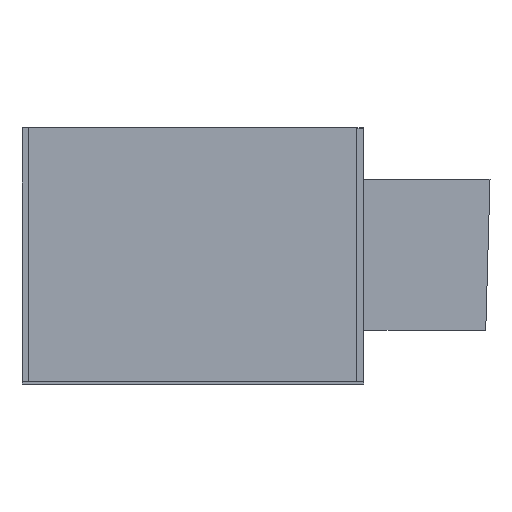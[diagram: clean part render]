
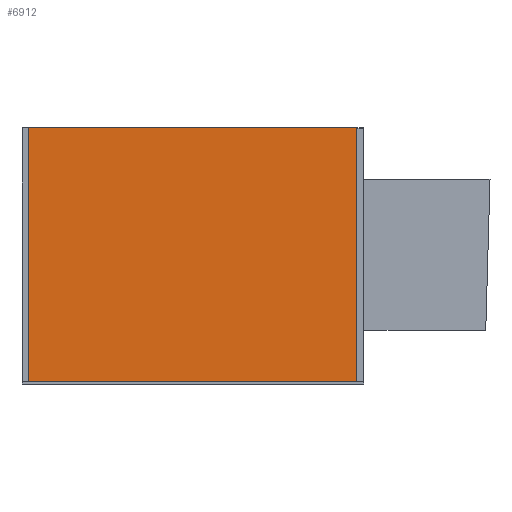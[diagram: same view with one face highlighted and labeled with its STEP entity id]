
A CAD part, left-side view. The second image highlights one B-rep face of the part: STEP entity #6912.
In plain terms, the highlighted planar face has unit normal (-1, 0, 0) as drawn and (0, 0, 1) by its records, which use the part's own axes.
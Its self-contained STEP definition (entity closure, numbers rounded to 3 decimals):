
#124 = EDGE_CURVE ( 'NONE', #4609, #1933, #7025, .T. ) ;
#166 = DIRECTION ( 'NONE',  ( 0., 0., 1. ) ) ;
#296 = CARTESIAN_POINT ( 'NONE',  ( -148.176, 73.687, 0. ) ) ;
#448 = VERTEX_POINT ( 'NONE', #6343 ) ;
#531 = LINE ( 'NONE', #2198, #1181 ) ;
#593 = CIRCLE ( 'NONE', #7205, 0.2 ) ;
#635 = VERTEX_POINT ( 'NONE', #5976 ) ;
#641 = DIRECTION ( 'NONE',  ( 0., 1., 0. ) ) ;
#726 = AXIS2_PLACEMENT_3D ( 'NONE', #5363, #3594, #5909 ) ;
#952 = CARTESIAN_POINT ( 'NONE',  ( -148.376, 457.687, 0. ) ) ;
#1132 = CARTESIAN_POINT ( 'NONE',  ( -148.176, 73.887, 0. ) ) ;
#1181 = VECTOR ( 'NONE', #641, 1000. ) ;
#1336 = EDGE_CURVE ( 'NONE', #635, #2489, #6697, .T. ) ;
#1803 = EDGE_CURVE ( 'NONE', #635, #2927, #3127, .T. ) ;
#1933 = VERTEX_POINT ( 'NONE', #952 ) ;
#2062 = ORIENTED_EDGE ( 'NONE', *, *, #5926, .T. ) ;
#2198 = CARTESIAN_POINT ( 'NONE',  ( -445.176, 457.687, 0. ) ) ;
#2323 = ORIENTED_EDGE ( 'NONE', *, *, #5016, .T. ) ;
#2405 = CARTESIAN_POINT ( 'NONE',  ( -148.376, 457.487, 0. ) ) ;
#2489 = VERTEX_POINT ( 'NONE', #1132 ) ;
#2518 = DIRECTION ( 'NONE',  ( 0., 0., -1. ) ) ;
#2551 = FACE_OUTER_BOUND ( 'NONE', #4877, .T. ) ;
#2628 = VECTOR ( 'NONE', #5741, 1000. ) ;
#2641 = DIRECTION ( 'NONE',  ( -1., 0., 0. ) ) ;
#2668 = DIRECTION ( 'NONE',  ( -1., 0., 0. ) ) ;
#2795 = AXIS2_PLACEMENT_3D ( 'NONE', #2405, #6904, #6796 ) ;
#2836 = LINE ( 'NONE', #2877, #3687 ) ;
#2865 = CIRCLE ( 'NONE', #726, 0.2 ) ;
#2877 = CARTESIAN_POINT ( 'NONE',  ( -148.176, 457.687, 0. ) ) ;
#2927 = VERTEX_POINT ( 'NONE', #5178 ) ;
#3127 = LINE ( 'NONE', #296, #7051 ) ;
#3208 = CARTESIAN_POINT ( 'NONE',  ( -148.376, 73.887, 0. ) ) ;
#3325 = ORIENTED_EDGE ( 'NONE', *, *, #4288, .F. ) ;
#3523 = LINE ( 'NONE', #4777, #2628 ) ;
#3551 = ORIENTED_EDGE ( 'NONE', *, *, #1803, .F. ) ;
#3594 = DIRECTION ( 'NONE',  ( 0., 0., 1. ) ) ;
#3687 = VECTOR ( 'NONE', #5144, 1000. ) ;
#3705 = AXIS2_PLACEMENT_3D ( 'NONE', #4228, #2518, #4120 ) ;
#3793 = DIRECTION ( 'NONE',  ( 0., 0., 1. ) ) ;
#4090 = DIRECTION ( 'NONE',  ( -1., 0., 0. ) ) ;
#4120 = DIRECTION ( 'NONE',  ( -1., 0., 0. ) ) ;
#4141 = CARTESIAN_POINT ( 'NONE',  ( -444.976, 457.687, 0. ) ) ;
#4228 = CARTESIAN_POINT ( 'NONE',  ( -148.176, 73.687, 0. ) ) ;
#4235 = AXIS2_PLACEMENT_3D ( 'NONE', #3208, #3793, #2641 ) ;
#4288 = EDGE_CURVE ( 'NONE', #5211, #448, #531, .T. ) ;
#4353 = EDGE_CURVE ( 'NONE', #4609, #2489, #2836, .T. ) ;
#4609 = VERTEX_POINT ( 'NONE', #4846 ) ;
#4777 = CARTESIAN_POINT ( 'NONE',  ( -148.176, 457.687, 0. ) ) ;
#4846 = CARTESIAN_POINT ( 'NONE',  ( -148.176, 457.487, 0. ) ) ;
#4877 = EDGE_LOOP ( 'NONE', ( #3325, #2062, #3551, #7206, #6759, #6736, #6271, #2323 ) ) ;
#5016 = EDGE_CURVE ( 'NONE', #6472, #448, #593, .T. ) ;
#5144 = DIRECTION ( 'NONE',  ( 0., -1., 0. ) ) ;
#5178 = CARTESIAN_POINT ( 'NONE',  ( -444.976, 73.687, 0. ) ) ;
#5191 = CARTESIAN_POINT ( 'NONE',  ( -445.176, 73.887, 0. ) ) ;
#5211 = VERTEX_POINT ( 'NONE', #5191 ) ;
#5363 = CARTESIAN_POINT ( 'NONE',  ( -444.976, 73.887, 0. ) ) ;
#5741 = DIRECTION ( 'NONE',  ( 1., 0., 0. ) ) ;
#5909 = DIRECTION ( 'NONE',  ( -1., 0., 0. ) ) ;
#5926 = EDGE_CURVE ( 'NONE', #5211, #2927, #2865, .T. ) ;
#5976 = CARTESIAN_POINT ( 'NONE',  ( -148.376, 73.687, 0. ) ) ;
#6271 = ORIENTED_EDGE ( 'NONE', *, *, #6459, .F. ) ;
#6343 = CARTESIAN_POINT ( 'NONE',  ( -445.176, 457.487, 0. ) ) ;
#6459 = EDGE_CURVE ( 'NONE', #6472, #1933, #3523, .T. ) ;
#6472 = VERTEX_POINT ( 'NONE', #4141 ) ;
#6474 = PLANE ( 'NONE',  #3705 ) ;
#6697 = CIRCLE ( 'NONE', #4235, 0.2 ) ;
#6736 = ORIENTED_EDGE ( 'NONE', *, *, #124, .T. ) ;
#6759 = ORIENTED_EDGE ( 'NONE', *, *, #4353, .F. ) ;
#6796 = DIRECTION ( 'NONE',  ( -1., 0., 0. ) ) ;
#6878 = CARTESIAN_POINT ( 'NONE',  ( -444.976, 457.487, 0. ) ) ;
#6904 = DIRECTION ( 'NONE',  ( 0., 0., 1. ) ) ;
#6912 = ADVANCED_FACE ( 'NONE', ( #2551 ), #6474, .F. ) ;
#7025 = CIRCLE ( 'NONE', #2795, 0.2 ) ;
#7051 = VECTOR ( 'NONE', #2668, 1000. ) ;
#7205 = AXIS2_PLACEMENT_3D ( 'NONE', #6878, #166, #4090 ) ;
#7206 = ORIENTED_EDGE ( 'NONE', *, *, #1336, .T. ) ;
